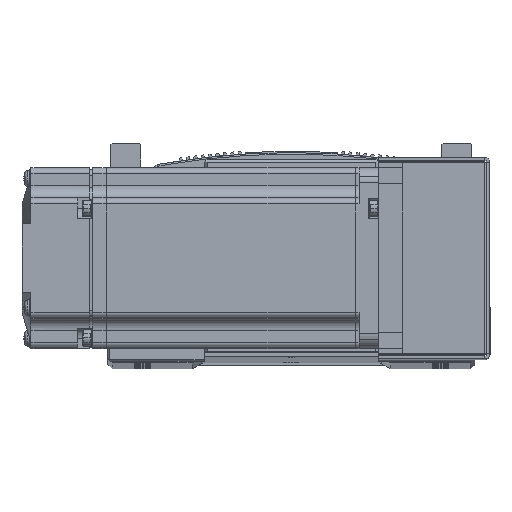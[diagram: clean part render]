
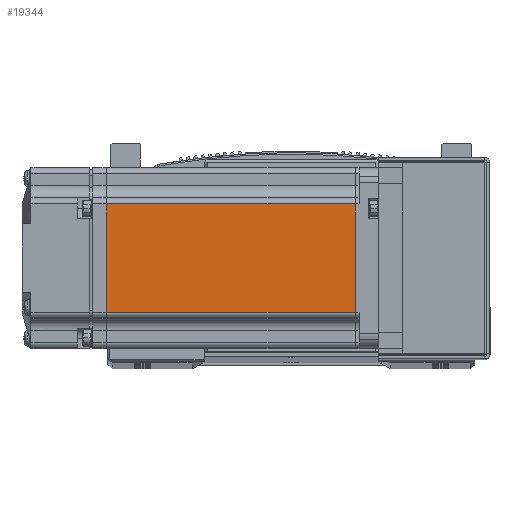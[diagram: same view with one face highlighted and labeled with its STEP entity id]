
A CAD part, top view. The second image highlights one B-rep face of the part: STEP entity #19344.
In plain terms, the highlighted planar face has unit normal (0, 0, 1) as drawn and (0, 1, 0) by its records, which use the part's own axes.
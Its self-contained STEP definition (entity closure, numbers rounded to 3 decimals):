
#4695 = VERTEX_POINT ( 'NONE', #88229 ) ;
#4708 = VERTEX_POINT ( 'NONE', #88165 ) ;
#19344 = ADVANCED_FACE ( 'NONE', ( #39808 ), #55811, .T. ) ;
#20252 = VECTOR ( 'NONE', #23662, 1000. ) ;
#20254 = LINE ( 'NONE', #23684, #20252 ) ;
#23662 = DIRECTION ( 'NONE',  ( 1., 0., 0. ) ) ;
#23684 = CARTESIAN_POINT ( 'NONE',  ( -6.5, 30., 18. ) ) ;
#29518 = LINE ( 'NONE', #36386, #29522 ) ;
#29520 = LINE ( 'NONE', #36440, #29550 ) ;
#29522 = VECTOR ( 'NONE', #36389, 1000. ) ;
#29530 = VECTOR ( 'NONE', #36465, 1000. ) ;
#29539 = LINE ( 'NONE', #36441, #29530 ) ;
#29550 = VECTOR ( 'NONE', #36460, 1000. ) ;
#34733 = CARTESIAN_POINT ( 'NONE',  ( -90.45, 30., 18. ) ) ;
#34870 = CARTESIAN_POINT ( 'NONE',  ( -7.75, 30., 18. ) ) ;
#36386 = CARTESIAN_POINT ( 'NONE',  ( -7.75, 30., 0. ) ) ;
#36389 = DIRECTION ( 'NONE',  ( 0., 0., 1. ) ) ;
#36440 = CARTESIAN_POINT ( 'NONE',  ( -6.5, 30., -18. ) ) ;
#36441 = CARTESIAN_POINT ( 'NONE',  ( -90.45, 30., 0. ) ) ;
#36460 = DIRECTION ( 'NONE',  ( -1., 0., 0. ) ) ;
#36465 = DIRECTION ( 'NONE',  ( 0., 0., 1. ) ) ;
#39808 = FACE_OUTER_BOUND ( 'NONE', #64680, .T. ) ;
#48612 = AXIS2_PLACEMENT_3D ( 'NONE', #55847, #55861, #55772 ) ;
#55772 = DIRECTION ( 'NONE',  ( 0., 0., 1. ) ) ;
#55811 = PLANE ( 'NONE',  #48612 ) ;
#55847 = CARTESIAN_POINT ( 'NONE',  ( -6.5, 30., 25. ) ) ;
#55861 = DIRECTION ( 'NONE',  ( 0., 1., 0. ) ) ;
#63659 = ORIENTED_EDGE ( 'NONE', *, *, #79077, .T. ) ;
#64680 = EDGE_LOOP ( 'NONE', ( #65660, #65665, #65626, #63659 ) ) ;
#65626 = ORIENTED_EDGE ( 'NONE', *, *, #74144, .T. ) ;
#65660 = ORIENTED_EDGE ( 'NONE', *, *, #74134, .F. ) ;
#65665 = ORIENTED_EDGE ( 'NONE', *, *, #74142, .T. ) ;
#74134 = EDGE_CURVE ( 'NONE', #4708, #77181, #29518, .T. ) ;
#74142 = EDGE_CURVE ( 'NONE', #4708, #4695, #29520, .T. ) ;
#74144 = EDGE_CURVE ( 'NONE', #4695, #77127, #29539, .T. ) ;
#77127 = VERTEX_POINT ( 'NONE', #34733 ) ;
#77181 = VERTEX_POINT ( 'NONE', #34870 ) ;
#79077 = EDGE_CURVE ( 'NONE', #77127, #77181, #20254, .T. ) ;
#88165 = CARTESIAN_POINT ( 'NONE',  ( -7.75, 30., -18. ) ) ;
#88229 = CARTESIAN_POINT ( 'NONE',  ( -90.45, 30., -18. ) ) ;
